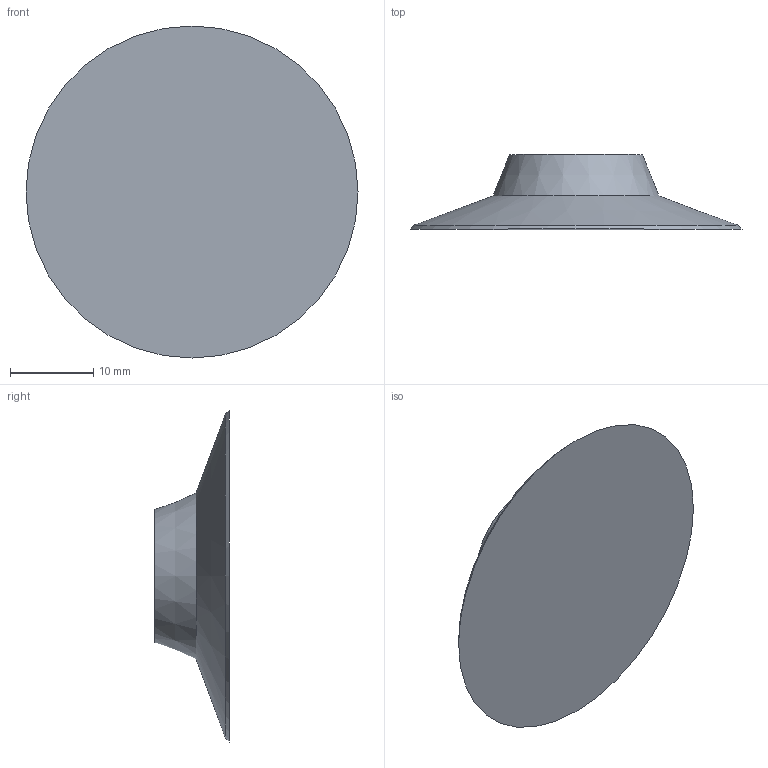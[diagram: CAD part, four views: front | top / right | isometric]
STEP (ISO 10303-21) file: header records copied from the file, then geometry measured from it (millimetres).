
FILE_DESCRIPTION((''),'2;1');
FILE_NAME('W:\Technik\Konstruktion\CAD-Daten\Kundenmodelle\102.040.310_Kd.stp','2010-09-23T17:29:17',('WMiller'),(''),'Autodesk Inventor 2009','Autodesk Inventor 2009','');
FILE_SCHEMA(('AUTOMOTIVE_DESIGN { 1 0 10303 214 1 1 1 1 }'));
Length unit declared in the file: millimetre
Products named in the file (1): 102.040
Bounding box: 40 x 9 x 40 mm (x, y, z)
Volume: 4308.1 mm3; surface area: 2818.3 mm2
Topology: 1 solids, 1 shells, 7 faces, 10 edges, 6 vertices
Faces by surface type: plane 3, cone 3, cylinder 1
Full cylindrical faces by diameter (mm): 6.5 x1
Entity records: 160 total; most frequent: DIRECTION 28, CARTESIAN_POINT 20, AXIS2_PLACEMENT_3D 14, ORIENTED_EDGE 12, EDGE_LOOP 12, FACE_OUTER_BOUND 7, ADVANCED_FACE 7, VERTEX_POINT 6
